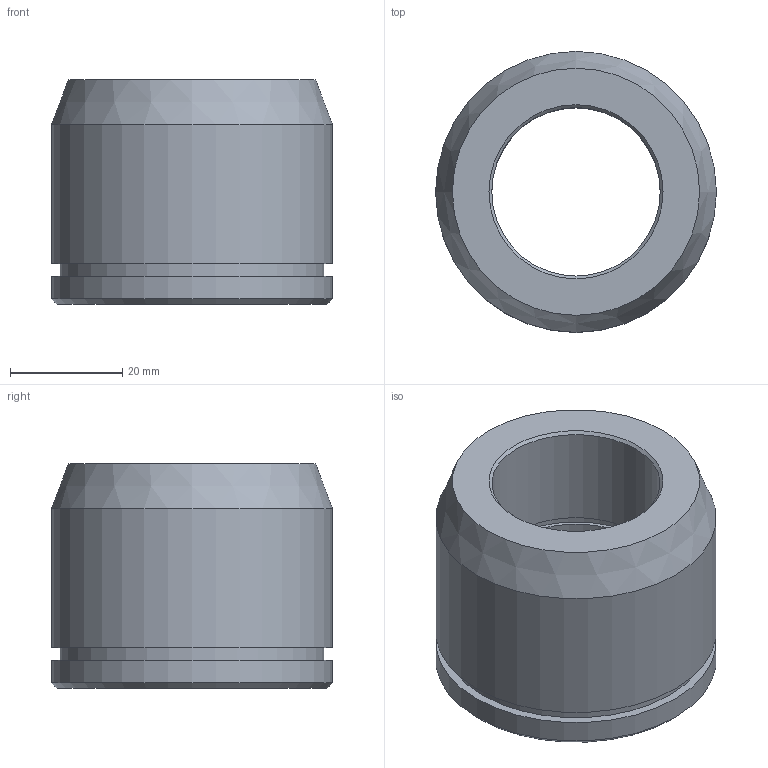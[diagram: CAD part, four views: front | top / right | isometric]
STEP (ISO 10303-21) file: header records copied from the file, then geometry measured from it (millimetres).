
FILE_DESCRIPTION(('FreeCAD Model'),'2;1');
FILE_NAME('Open CASCADE Shape Model','2026-10-08T21:41:43',('FreeCAD'),( 'FreeCAD'),'Open CASCADE STEP processor 7.8','FreeCAD','Unknown');
FILE_SCHEMA(('AUTOMOTIVE_DESIGN { 1 0 10303 214 1 1 1 1 }'));
Length unit declared in the file: millimetre
Products named in the file (1): Open CASCADE STEP translator 7.8 2
Bounding box: 50 x 50 x 40 mm (x, y, z)
Volume: 47757.3 mm3; surface area: 12558 mm2
Topology: 1 solids, 1 shells, 16 faces, 26 edges, 16 vertices
Faces by surface type: plane 6, cylinder 6, cone 4
Full cylindrical faces by diameter (mm): 30 x2, 31.4 x1, 47 x1, 50 x2
Entity records: 388 total; most frequent: DIRECTION 76, CARTESIAN_POINT 59, ORIENTED_EDGE 52, AXIS2_PLACEMENT_3D 33, EDGE_CURVE 26, FACE_BOUND 22, EDGE_LOOP 22, ADVANCED_FACE 16
